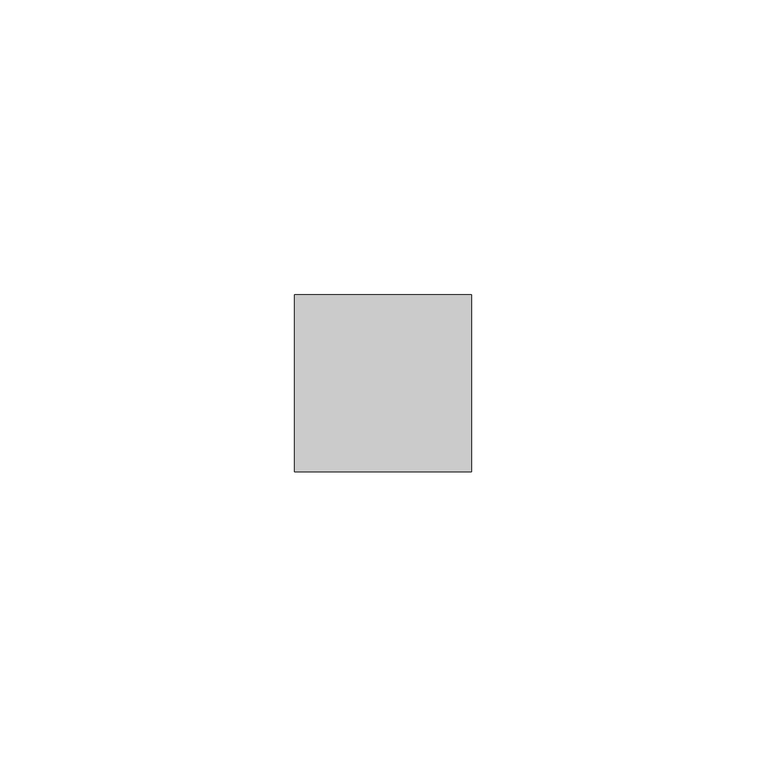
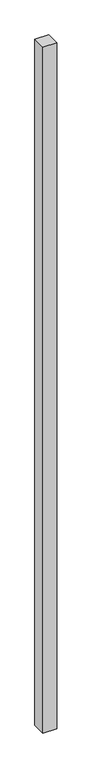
"""IFC4 building model written with IfcOpenShell, lengths in millimetres: member geometry, 矩形竖梃 : 30mm 正方形."""

import ifcopenshell
import ifcopenshell.guid

model = None  # the IFC model being written
_history = None  # IfcOwnerHistory: only IFC2X3 demands one
_inside = {}  # id of a spatial element -> (the spatial element, [elements in it])
_under = {}  # id of a project, library or spatial element -> (it, [spatial elements below it])
_declared = {}  # id of a project -> (the project, [libraries it declares])
_typed = {}  # id of a type object -> (the type object, [elements of that type])
_made_of = {}  # id of a material, layer set ... -> (it, [elements and type objects made of it])


def new_model(schema):
    """Start an empty IFC model of exactly this schema.

    Asked for "IFC4X3", IfcOpenShell would pick the latest addendum, in which some entities
    have other attributes; the version numbers below select the first issue.
    IFC2X3 requires an IfcOwnerHistory on every rooted entity: one is made here for all.
    """
    global model, _history
    if schema == "IFC4X3":
        model = ifcopenshell.file(schema_version=(4, 3, 0, 0))
    else:
        model = ifcopenshell.file(schema=schema)
    _inside.clear()
    _under.clear()
    _declared.clear()
    _typed.clear()
    _made_of.clear()
    _history = None
    if model.schema == "IFC2X3":
        org = make("IfcOrganization", Name="unknown")
        user = make(
            "IfcPersonAndOrganization",
            ThePerson=make("IfcPerson", FamilyName="unknown"),
            TheOrganization=org,
        )
        app = make(
            "IfcApplication",
            ApplicationDeveloper=org,
            Version="unknown",
            ApplicationFullName="unknown",
            ApplicationIdentifier="unknown",
        )
        _history = make(
            "IfcOwnerHistory",
            OwningUser=user,
            OwningApplication=app,
            ChangeAction="ADDED",
            CreationDate=0,
        )
    return model


def make(cls, **values):
    """One entity of the class cls with the attributes given. An attribute that is None is left unset."""
    return model.create_entity(
        cls, **{name: value for name, value in values.items() if value is not None}
    )


def rooted(cls, **values):
    """An entity with a GlobalId (a new one), such as an element, a storey or a relation."""
    return make(cls, GlobalId=ifcopenshell.guid.new(), OwnerHistory=_history, **values)


def si_unit(unit_type, name, prefix=None):
    """IfcSIUnit, for example si_unit("LENGTHUNIT", "METRE", prefix="MILLI")."""
    return make("IfcSIUnit", UnitType=unit_type, Prefix=prefix, Name=name)


def assignment(units):
    """IfcUnitAssignment: the units of a project."""
    return None if units is None else make("IfcUnitAssignment", Units=units)


def point(xyz):
    """IfcCartesianPoint."""
    return None if xyz is None else make("IfcCartesianPoint", Coordinates=xyz)


def direction(xyz):
    """IfcDirection."""
    return None if xyz is None else make("IfcDirection", DirectionRatios=xyz)


def frame(location, z_axis=None, x_axis=None):
    """IfcAxis2Placement3D, a coordinate frame: its origin and axes. An axis left out is left unset."""
    return make(
        "IfcAxis2Placement3D",
        Location=point(location),
        Axis=direction(z_axis),
        RefDirection=direction(x_axis),
    )


def origin():
    """The frame at (0, 0, 0) with its axes left unset."""
    return frame((0.0, 0.0, 0.0))


def place(relative_to, where):
    """IfcLocalPlacement: puts the frame where relative to a parent placement (None: the world)."""
    return make(
        "IfcLocalPlacement", PlacementRelTo=relative_to, RelativePlacement=where
    )


def context(
    kind, dimensions, precision=None, world=None, true_north=None, identifier=None
):
    """IfcGeometricRepresentationContext, for example the 3D "Model" context."""
    return make(
        "IfcGeometricRepresentationContext",
        ContextIdentifier=identifier,
        ContextType=kind,
        CoordinateSpaceDimension=dimensions,
        Precision=precision,
        WorldCoordinateSystem=world,
        TrueNorth=true_north,
    )


def project(units=None, contexts=None):
    """IfcProject with its units and contexts."""
    return rooted(
        "IfcProject",
        Name="project",
        RepresentationContexts=contexts,
        UnitsInContext=assignment(units),
    )


def spatial(cls, under=None, at=None, **own):
    """A site, building, storey or space (cls), placed at a placement, below another one or the project."""
    s = rooted(cls, ObjectPlacement=at, **own)
    if under is not None:
        _under.setdefault(under.id(), (under, []))[1].append(s)
    return s


def polyline(points):
    """IfcPolyline through the points."""
    return make("IfcPolyline", Points=[point(p) for p in points])


def outline(outer, holes=None, kind="AREA"):
    """IfcArbitraryClosedProfileDef: a profile drawn as a closed curve; with holes, ...WithVoids."""
    if holes is None:
        return make("IfcArbitraryClosedProfileDef", ProfileType=kind, OuterCurve=outer)
    return make(
        "IfcArbitraryProfileDefWithVoids",
        ProfileType=kind,
        OuterCurve=outer,
        InnerCurves=holes,
    )


def extrude(swept, where, along, depth):
    """IfcExtrudedAreaSolid: the profile swept, set in the frame where, extruded along a direction by depth."""
    return make(
        "IfcExtrudedAreaSolid",
        SweptArea=swept,
        Position=where,
        ExtrudedDirection=direction(along),
        Depth=depth,
    )


def shape(context_of_items, identifier, shape_type, items):
    """IfcShapeRepresentation: the items that make up one representation, for example the "Body"."""
    return make(
        "IfcShapeRepresentation",
        ContextOfItems=context_of_items,
        RepresentationIdentifier=identifier,
        RepresentationType=shape_type,
        Items=items,
    )


def source(mapping_origin, context_of_items, identifier, shape_type, items):
    """IfcRepresentationMap: a shape defined once, which mapped items show again and again."""
    return make(
        "IfcRepresentationMap",
        MappingOrigin=mapping_origin,
        MappedRepresentation=shape(context_of_items, identifier, shape_type, items),
    )


def transform(
    local_origin,
    x_axis=None,
    y_axis=None,
    z_axis=None,
    scale=None,
    scale2=None,
    scale3=None,
    uniform=True,
):
    """IfcCartesianTransformationOperator3D, or its non-uniform kind. x_axis, y_axis, z_axis: its Axis1, 2, 3."""
    if uniform:
        return make(
            "IfcCartesianTransformationOperator3D",
            Axis1=direction(x_axis),
            Axis2=direction(y_axis),
            LocalOrigin=point(local_origin),
            Scale=scale,
            Axis3=direction(z_axis),
        )
    return make(
        "IfcCartesianTransformationOperator3DnonUniform",
        Axis1=direction(x_axis),
        Axis2=direction(y_axis),
        LocalOrigin=point(local_origin),
        Scale=scale,
        Axis3=direction(z_axis),
        Scale2=scale2,
        Scale3=scale3,
    )


def mapped(mapping_source, mapping_target):
    """IfcMappedItem: shows the shape of a source again, moved by a transform."""
    return make(
        "IfcMappedItem", MappingSource=mapping_source, MappingTarget=mapping_target
    )


def made_of(thing, what):
    """Note that an element or type object is made of a material, layer set ...; save() writes the relation."""
    if what is not None:
        _made_of.setdefault(what.id(), (what, []))[1].append(thing)
    return thing


def element(
    cls,
    number,
    at=None,
    inside=None,
    cuts=None,
    type_object=None,
    material=None,
    context=None,
    identifier="Body",
    shape_type=None,
    held_by="IfcProductDefinitionShape",
    body=None,
    shapes=None,
    **own,
):
    """One element of the class cls, such as IfcWall. Its Tag is "e" and its number.

    at: its placement. inside: the storey or other place that contains it. cuts: it is an
    opening in that element (IfcRelVoidsElement). A single representation is given by context,
    identifier, shape_type and body (its items); several are given by shapes. held_by: the class
    of the entity that holds the representations. save() writes the other relations.
    """
    e = rooted(cls, Tag="e%d" % number, ObjectPlacement=at, **own)
    if body is not None:
        shapes = [shape(context, identifier, shape_type, body)]
    if shapes is not None:
        e.Representation = make(held_by, Representations=shapes)
    if inside is not None:
        _inside.setdefault(inside.id(), (inside, []))[1].append(e)
    if cuts is not None:
        rooted(
            "IfcRelVoidsElement", RelatingBuildingElement=cuts, RelatedOpeningElement=e
        )
    if type_object is not None:
        _typed.setdefault(type_object.id(), (type_object, []))[1].append(e)
    return made_of(e, material)


def aggregate(whole, parts):
    """IfcRelAggregates: a whole, such as a stair, and the parts it consists of."""
    return rooted("IfcRelAggregates", RelatingObject=whole, RelatedObjects=parts)


def save(model, path):
    """Write the relations noted so far, then the file.

    IfcRelAggregates (storeys below a building ...), IfcRelContainedInSpatialStructure (elements
    in a storey), IfcRelDefinesByType, IfcRelAssociatesMaterial and IfcRelDeclares: one each for
    every whole, place, type object, material and project.
    """
    for whole, parts in _under.values():
        aggregate(whole, parts)
    for where, things in _inside.values():
        rooted(
            "IfcRelContainedInSpatialStructure",
            RelatedElements=things,
            RelatingStructure=where,
        )
    for kind, things in _typed.values():
        rooted("IfcRelDefinesByType", RelatedObjects=things, RelatingType=kind)
    for what, things in _made_of.values():
        rooted("IfcRelAssociatesMaterial", RelatedObjects=things, RelatingMaterial=what)
    for by, libraries in _declared.values():
        rooted("IfcRelDeclares", RelatingContext=by, RelatedDefinitions=libraries)
    model.write(path)


def member_9cf9c4d7(model_context):
    return source(origin(), model_context, "Body", "SweptSolid", [
        extrude(outline(polyline([(15.0, 15.0), (15.0, -15.0), (-15.0, -15.0), (-15.0, 15.0), (15.0, 15.0)])), frame((0.0, 0.0, -1570.0), z_axis=(0.0, 0.0, 1.0), x_axis=(1.0, 0.0, 0.0)), (0.0, 0.0, 1.0), 1570.0),
    ])


if __name__ == "__main__":
    model = new_model("IFC4")
    model_context = context("Model", 3, world=origin())
    ifc_project = project(units=[si_unit("LENGTHUNIT", "METRE", prefix="MILLI")], contexts=[model_context])
    site = spatial("IfcSite", under=ifc_project)
    building = spatial("IfcBuilding", under=site)
    placement = place(None, origin())
    member_shape = member_9cf9c4d7(model_context)
    element("IfcMember", 1, ObjectType="矩形竖梃 : 30mm 正方形", at=placement, inside=building, context=model_context, shape_type="MappedRepresentation", body=[
        mapped(member_shape, transform((0.0, 0.0, 0.0), x_axis=(1.0, 0.0, 0.0), y_axis=(0.0, 1.0, 0.0), z_axis=(0.0, 0.0, 1.0))),
    ])
    save(model, "model.ifc")
